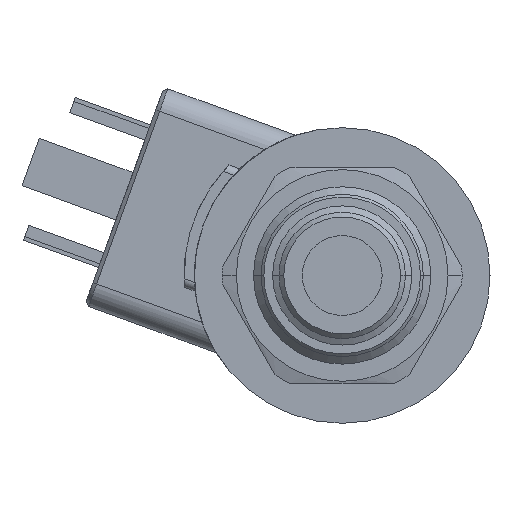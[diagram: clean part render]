
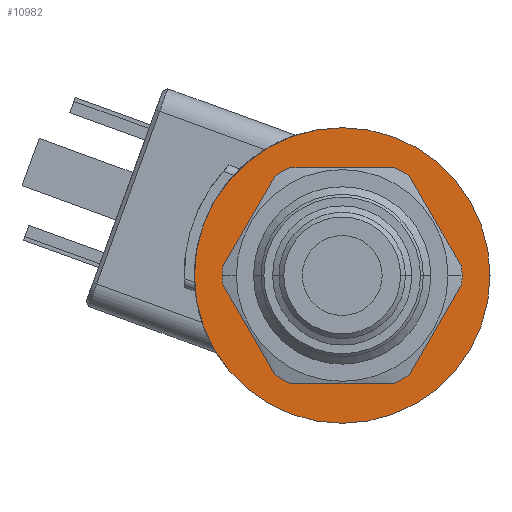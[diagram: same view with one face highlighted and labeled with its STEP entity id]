
A CAD part, left-side view. The second image highlights one B-rep face of the part: STEP entity #10982.
In plain terms, the highlighted planar face has unit normal (-1, 0, 0).
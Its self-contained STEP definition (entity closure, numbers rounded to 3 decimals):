
#9495=CARTESIAN_POINT('',(0.,0.,0.));
#9496=DIRECTION('',(-1.,0.,0.));
#9497=DIRECTION('',(0.,1.,0.));
#9498=AXIS2_PLACEMENT_3D('',#9495,#9496,#9497);
#9503=CARTESIAN_POINT('',(0.,0.,0.));
#9504=DIRECTION('',(1.,0.,0.));
#9505=DIRECTION('',(0.,1.,0.));
#9506=AXIS2_PLACEMENT_3D('',#9503,#9504,#9505);
#9511=CARTESIAN_POINT('',(0.,0.,0.));
#9512=DIRECTION('',(1.,0.,0.));
#9513=DIRECTION('',(0.,1.,0.));
#9514=AXIS2_PLACEMENT_3D('',#9511,#9512,#9513);
#9519=CARTESIAN_POINT('',(0.,0.,0.));
#9520=DIRECTION('',(1.,0.,0.));
#9521=DIRECTION('',(0.,-1.,0.));
#9522=AXIS2_PLACEMENT_3D('',#9519,#9520,#9521);
#10771=CARTESIAN_POINT('',(0.,-18.5,0.));
#10773=VERTEX_POINT('',#10771);
#10870=CARTESIAN_POINT('',(0.,18.5,0.));
#10871=VERTEX_POINT('',#10870);
#10953=CARTESIAN_POINT('',(0.,11.02,0.));
#10954=VERTEX_POINT('',#10953);
#10955=CARTESIAN_POINT('',(0.,-11.02,0.));
#10956=VERTEX_POINT('',#10955);
#10965=CARTESIAN_POINT('',(0.,0.,0.));
#10966=DIRECTION('',(1.,0.,0.));
#10967=DIRECTION('',(0.,-1.,0.));
#10968=AXIS2_PLACEMENT_3D('',#10965,#10966,#10967);
#10969=PLANE('',#10968);
#10971=ORIENTED_EDGE('',*,*,#10970,.F.);
#10973=ORIENTED_EDGE('',*,*,#10972,.T.);
#10974=EDGE_LOOP('',(#10971,#10973));
#10975=FACE_OUTER_BOUND('',#10974,.F.);
#10977=ORIENTED_EDGE('',*,*,#10976,.F.);
#10979=ORIENTED_EDGE('',*,*,#10978,.F.);
#10980=EDGE_LOOP('',(#10977,#10979));
#10981=FACE_BOUND('',#10980,.F.);
#9499=CIRCLE('',#9498,18.5);
#9507=CIRCLE('',#9506,18.5);
#9515=CIRCLE('',#9514,11.02);
#9523=CIRCLE('',#9522,11.02);
#10970=EDGE_CURVE('',#10871,#10773,#9499,.T.);
#10972=EDGE_CURVE('',#10871,#10773,#9507,.T.);
#10976=EDGE_CURVE('',#10954,#10956,#9515,.T.);
#10978=EDGE_CURVE('',#10956,#10954,#9523,.T.);
#10982=ADVANCED_FACE('',(#10975,#10981),#10969,.F.);
